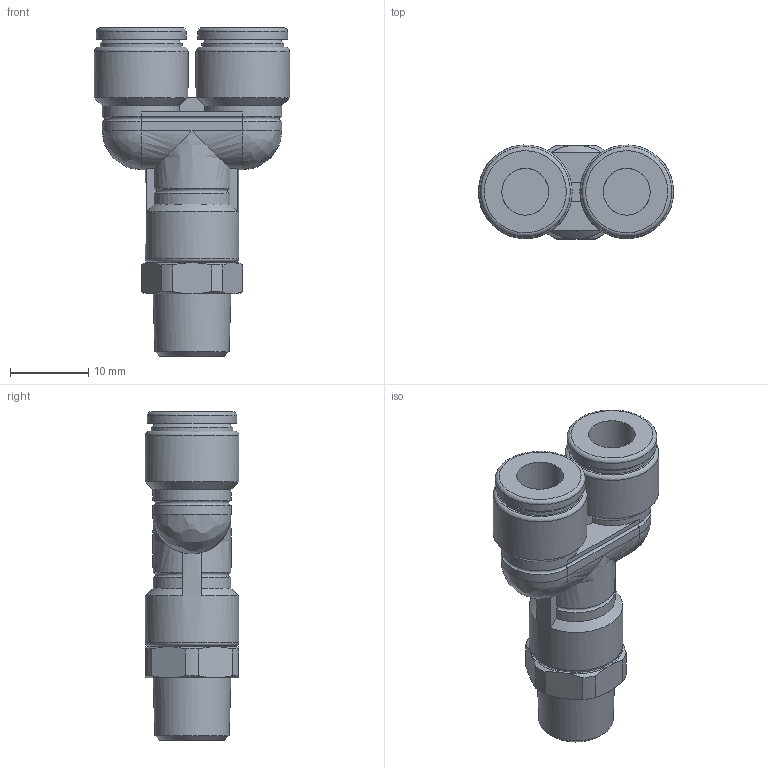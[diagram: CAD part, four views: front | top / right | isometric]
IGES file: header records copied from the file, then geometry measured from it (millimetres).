
Global section: file name: [05] FS6-01MY FS6-01MYW; native system: Autodesk Inventor 2014; preprocessor: unknown; author: kazuhiro.t; date: 20130806.165729; units: millimetre
Bounding box: 25 x 12 x 42.1 mm (x, y, z)
Volume: 5162.6 mm3; surface area: 3104.1 mm2
Topology: 1 solids, 1 shells, 88 faces, 206 edges, 124 vertices
Faces by surface type: bspline 88
